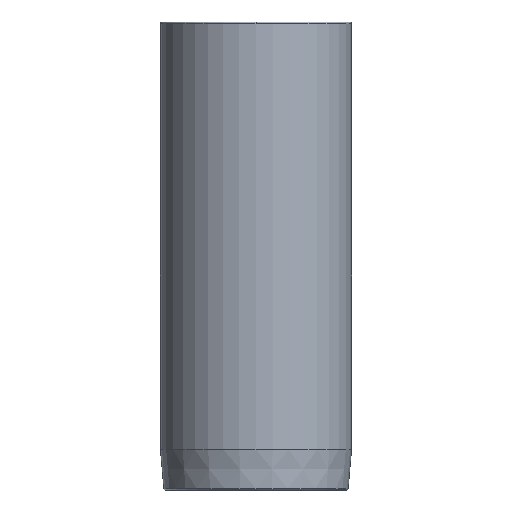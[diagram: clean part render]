
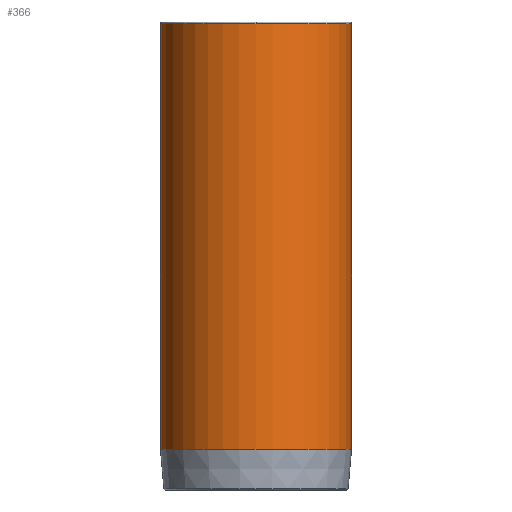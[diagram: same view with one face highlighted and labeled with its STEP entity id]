
A CAD part, front view. The second image highlights one B-rep face of the part: STEP entity #366.
In plain terms, the highlighted cylindrical face has radius 30.625 mm (diameter 61.25 mm), a partial arc.
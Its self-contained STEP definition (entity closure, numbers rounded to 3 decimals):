
#271=CARTESIAN_POINT('',(0.0,-30.625,68.5));
#272=VERTEX_POINT('',#271);
#298=CARTESIAN_POINT('',(-30.625,0.,68.5));
#299=VERTEX_POINT('',#298);
#307=CARTESIAN_POINT('',(0.0,0.,68.5));
#308=DIRECTION('',(0.0,0.0,1.0));
#309=DIRECTION('',(1.0,0.0,0.0));
#310=AXIS2_PLACEMENT_3D('',#307,#308,#309);
#311=CIRCLE('',#310,30.625);
#312=EDGE_CURVE('',#299,#272,#311,.T.);
#317=CARTESIAN_POINT('',(0.0,0.,0.272));
#318=DIRECTION('',(0.0,0.,1.0));
#319=DIRECTION('',(1.0,0.0,0.0));
#320=AXIS2_PLACEMENT_3D('',#317,#318,#319);
#321=CYLINDRICAL_SURFACE('',#320,30.625);
#322=CARTESIAN_POINT('',(30.625,0.,68.5));
#323=VERTEX_POINT('',#322);
#324=CARTESIAN_POINT('',(30.625,0.,-67.956));
#325=VERTEX_POINT('',#324);
#326=CARTESIAN_POINT('',(30.625,0.,68.5));
#327=DIRECTION('',(0.0,0.0,-1.0));
#328=VECTOR('',#327,136.456);
#329=LINE('',#326,#328);
#330=EDGE_CURVE('',#323,#325,#329,.T.);
#331=ORIENTED_EDGE('',*,*,#330,.F.);
#332=CARTESIAN_POINT('',(0.0,0.,68.5));
#333=DIRECTION('',(0.0,0.0,1.0));
#334=DIRECTION('',(1.0,0.0,0.0));
#335=AXIS2_PLACEMENT_3D('',#332,#333,#334);
#336=CIRCLE('',#335,30.625);
#337=EDGE_CURVE('',#272,#323,#336,.T.);
#338=ORIENTED_EDGE('',*,*,#337,.F.);
#339=ORIENTED_EDGE('',*,*,#312,.F.);
#340=CARTESIAN_POINT('',(-30.625,0.,-67.956));
#341=VERTEX_POINT('',#340);
#342=CARTESIAN_POINT('',(-30.625,0.,68.5));
#343=DIRECTION('',(0.0,0.0,-1.0));
#344=VECTOR('',#343,136.456);
#345=LINE('',#342,#344);
#346=EDGE_CURVE('',#299,#341,#345,.T.);
#347=ORIENTED_EDGE('',*,*,#346,.T.);
#348=CARTESIAN_POINT('',(0.0,-30.625,-67.956));
#349=VERTEX_POINT('',#348);
#350=CARTESIAN_POINT('',(0.0,0.,-67.956));
#351=DIRECTION('',(0.0,0.0,1.0));
#352=DIRECTION('',(1.0,0.0,0.0));
#353=AXIS2_PLACEMENT_3D('',#350,#351,#352);
#354=CIRCLE('',#353,30.625);
#355=EDGE_CURVE('',#341,#349,#354,.T.);
#356=ORIENTED_EDGE('',*,*,#355,.T.);
#357=CARTESIAN_POINT('',(0.0,0.,-67.956));
#358=DIRECTION('',(0.0,0.0,1.0));
#359=DIRECTION('',(1.0,0.0,0.0));
#360=AXIS2_PLACEMENT_3D('',#357,#358,#359);
#361=CIRCLE('',#360,30.625);
#362=EDGE_CURVE('',#349,#325,#361,.T.);
#363=ORIENTED_EDGE('',*,*,#362,.T.);
#364=EDGE_LOOP('',(#331,#338,#339,#347,#356,#363));
#365=FACE_OUTER_BOUND('',#364,.T.);
#366=ADVANCED_FACE('',(#365),#321,.T.);
